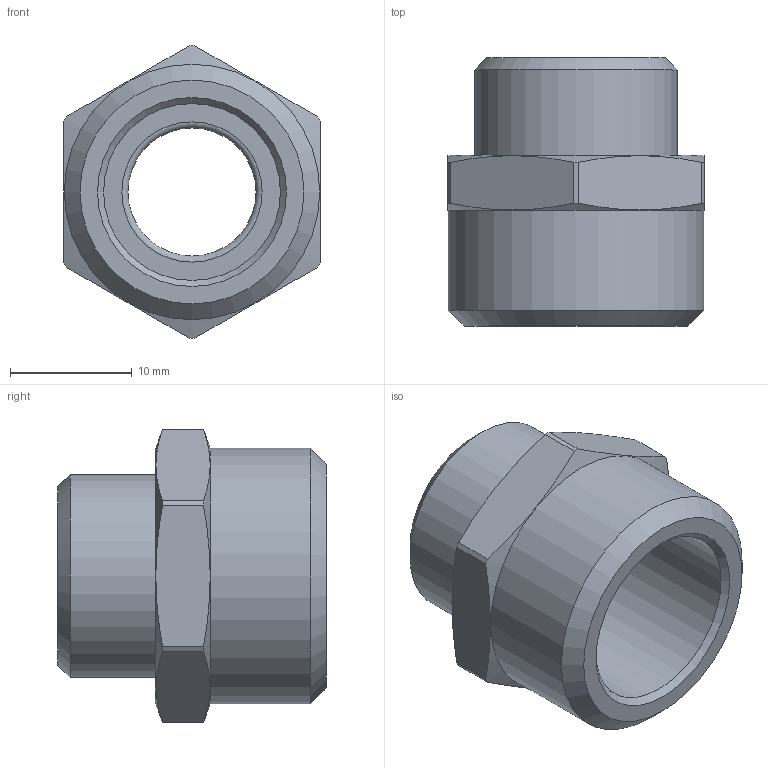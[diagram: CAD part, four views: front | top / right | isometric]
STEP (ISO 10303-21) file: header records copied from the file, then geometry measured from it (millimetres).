
FILE_DESCRIPTION(('STEP AP203'), '1');
FILE_NAME('覆.753137.028 - VTr.580.N.0403 侳瀅. G1-2xG3-8', '2024-07-03T10:11:54', ('Boss'), (''), 'C3D Converter', 'C3D Toolkit', '');
FILE_SCHEMA(('CONFIG_CONTROL_DESIGN'));
Length unit declared in the file: millimetre
Products named in the file (1): ВР.753137.028
Bounding box: 21 x 22 x 24 mm (x, y, z)
Volume: 3786.6 mm3; surface area: 2695.8 mm2
Topology: 1 solids, 1 shells, 27 faces, 63 edges, 40 vertices
Faces by surface type: cylinder 10, plane 10, cone 6, torus 1
Full cylindrical faces by diameter (mm): 10.5 x1, 14.5 x1, 16.662 x1, 20.955 x1
Entity records: 1154 total; most frequent: CARTESIAN_POINT 547, DIRECTION 120, ORIENTED_EDGE 104, AXIS2_PLACEMENT_3D 54, EDGE_CURVE 52, EDGE_LOOP 42, VERTEX_POINT 40, ADVANCED_FACE 27
